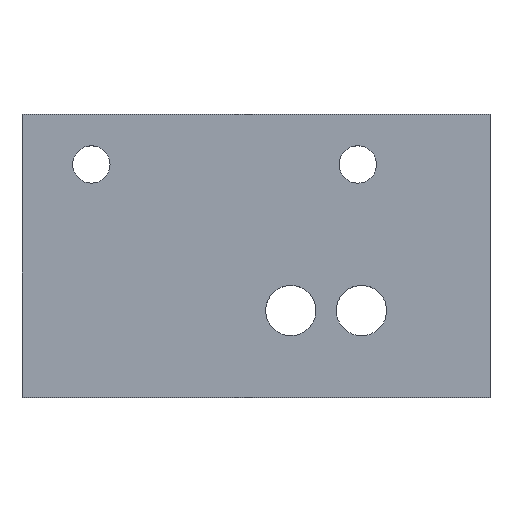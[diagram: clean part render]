
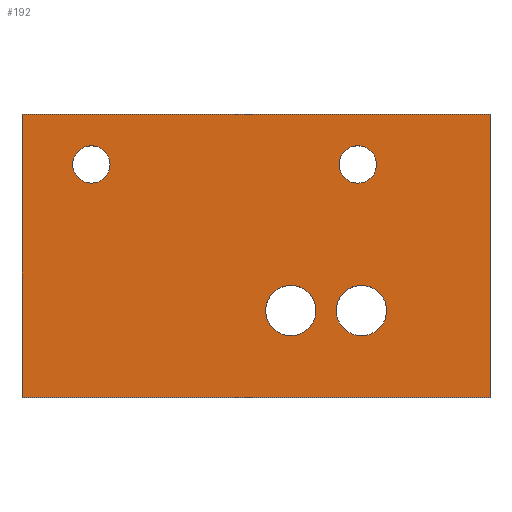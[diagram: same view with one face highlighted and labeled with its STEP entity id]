
A CAD part, top view. The second image highlights one B-rep face of the part: STEP entity #192.
In plain terms, the highlighted planar face has unit normal (0, 0, 1).
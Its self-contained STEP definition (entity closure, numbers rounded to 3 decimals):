
#15=FACE_BOUND('',#43,.T.);
#16=FACE_BOUND('',#44,.T.);
#17=FACE_BOUND('',#45,.T.);
#18=FACE_BOUND('',#46,.T.);
#24=PLANE('',#220);
#32=FACE_OUTER_BOUND('',#42,.T.);
#42=EDGE_LOOP('',(#149,#150,#151,#152));
#43=EDGE_LOOP('',(#153));
#44=EDGE_LOOP('',(#154));
#45=EDGE_LOOP('',(#155));
#46=EDGE_LOOP('',(#156));
#62=LINE('',#306,#78);
#63=LINE('',#309,#79);
#64=LINE('',#311,#80);
#65=LINE('',#312,#81);
#78=VECTOR('',#252,10.);
#79=VECTOR('',#255,10.);
#80=VECTOR('',#256,10.);
#81=VECTOR('',#257,10.);
#89=CIRCLE('',#214,1.7);
#91=CIRCLE('',#217,1.7);
#93=CIRCLE('',#221,1.264);
#94=CIRCLE('',#222,1.264);
#97=VERTEX_POINT('',#287);
#99=VERTEX_POINT('',#293);
#101=VERTEX_POINT('',#299);
#104=VERTEX_POINT('',#304);
#105=VERTEX_POINT('',#308);
#106=VERTEX_POINT('',#310);
#107=VERTEX_POINT('',#313);
#108=VERTEX_POINT('',#315);
#113=EDGE_CURVE('',#97,#97,#89,.T.);
#116=EDGE_CURVE('',#99,#99,#91,.T.);
#122=EDGE_CURVE('',#104,#101,#62,.T.);
#123=EDGE_CURVE('',#105,#104,#63,.T.);
#124=EDGE_CURVE('',#105,#106,#64,.T.);
#125=EDGE_CURVE('',#106,#101,#65,.T.);
#126=EDGE_CURVE('',#107,#107,#93,.T.);
#127=EDGE_CURVE('',#108,#108,#94,.T.);
#149=ORIENTED_EDGE('',*,*,#123,.F.);
#150=ORIENTED_EDGE('',*,*,#124,.T.);
#151=ORIENTED_EDGE('',*,*,#125,.T.);
#152=ORIENTED_EDGE('',*,*,#122,.F.);
#153=ORIENTED_EDGE('',*,*,#113,.T.);
#154=ORIENTED_EDGE('',*,*,#116,.T.);
#155=ORIENTED_EDGE('',*,*,#126,.T.);
#156=ORIENTED_EDGE('',*,*,#127,.T.);
#192=ADVANCED_FACE('',(#32,#15,#16,#17,#18),#24,.T.);
#214=AXIS2_PLACEMENT_3D('',#288,#235,#236);
#217=AXIS2_PLACEMENT_3D('',#294,#242,#243);
#220=AXIS2_PLACEMENT_3D('',#307,#253,#254);
#221=AXIS2_PLACEMENT_3D('',#314,#258,#259);
#222=AXIS2_PLACEMENT_3D('',#316,#260,#261);
#235=DIRECTION('center_axis',(0.,0.,
-1.));
#236=DIRECTION('ref_axis',(-1.,0.,0.));
#242=DIRECTION('center_axis',(0.,0.,
-1.));
#243=DIRECTION('ref_axis',(-1.,0.,0.));
#252=DIRECTION('',(-1.,0.,0.));
#253=DIRECTION('center_axis',(0.,0.,
1.));
#254=DIRECTION('ref_axis',(-1.,0.,0.));
#255=DIRECTION('',(0.,-1.,0.));
#256=DIRECTION('',(-1.,0.,0.));
#257=DIRECTION('',(0.,-1.,0.));
#258=DIRECTION('center_axis',(0.,0.,
-1.));
#259=DIRECTION('ref_axis',(-1.,0.,0.));
#260=DIRECTION('center_axis',(0.,0.,
-1.));
#261=DIRECTION('ref_axis',(-1.,0.,0.));
#287=CARTESIAN_POINT('',(220.811,12.506,-16.869));
#288=CARTESIAN_POINT('Origin',(219.111,12.506,-16.869));
#293=CARTESIAN_POINT('',(216.036,12.506,-16.869));
#294=CARTESIAN_POINT('Origin',(214.336,12.506,-16.869));
#299=CARTESIAN_POINT('',(196.179,6.636,-16.869));
#304=CARTESIAN_POINT('',(227.793,6.636,-16.869));
#306=CARTESIAN_POINT('',(231.793,6.636,-16.869));
#307=CARTESIAN_POINT('Origin',(213.986,22.294,-16.869));
#308=CARTESIAN_POINT('',(227.793,25.752,-16.869));
#309=CARTESIAN_POINT('',(227.793,20.565,-16.869));
#310=CARTESIAN_POINT('',(196.179,25.752,-16.869));
#311=CARTESIAN_POINT('',(196.179,25.752,-16.869));
#312=CARTESIAN_POINT('',(196.179,17.636,-16.869));
#313=CARTESIAN_POINT('',(202.128,22.375,-16.869));
#314=CARTESIAN_POINT('Origin',(200.864,22.375,-16.869));
#315=CARTESIAN_POINT('',(220.128,22.375,-16.869));
#316=CARTESIAN_POINT('Origin',(218.864,22.375,-16.869));
